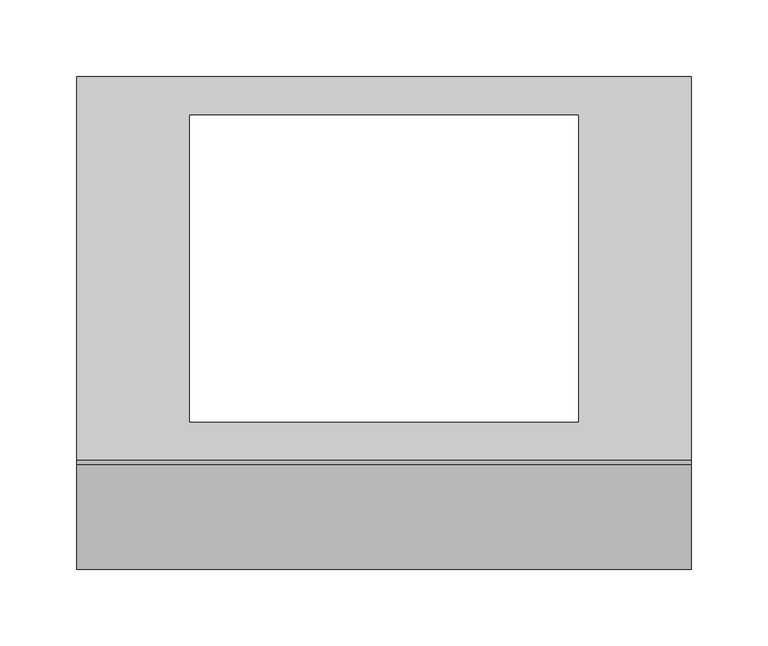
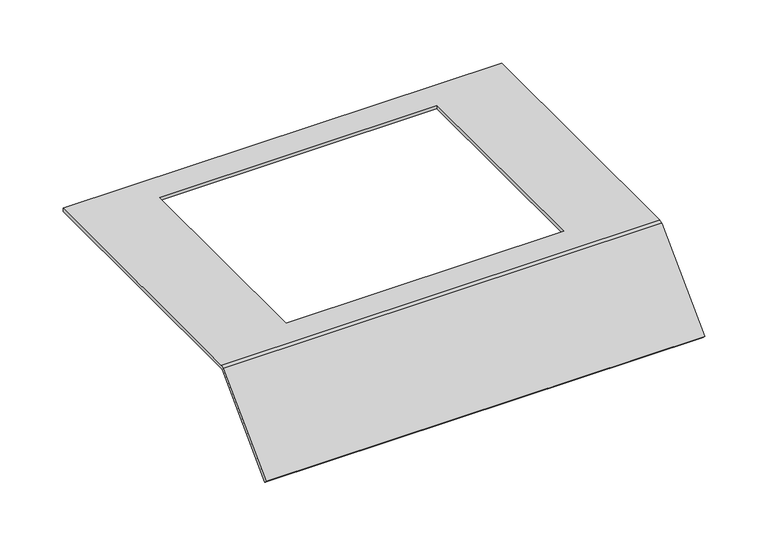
"""IFC4 building model written with IfcOpenShell, lengths in millimetres: proxy geometry, Electrical_Installation_Hager_Covers-With-Installation-Opening-E09 : Electrical_Installation_Hager_Covers-With-Installation-Opening-E09."""

from ifc_helpers import new_model, si_unit, frame, origin, place, context, project, spatial, polyline, circle_curve, source, transform, mapped, element, save
from ifc_brep_helpers import plane_surface, cylinder_surface, revolved_surface, advanced_brep


def electrical_fixtures_65cdaa76(model_context):
    return source(origin(), model_context, "Body", "AdvancedBrep", [
        advanced_brep(
        [(0.0, 125.0, 40.5), (0.0, 125.0, 37.5), (0.0, -124.8229541, 37.5), (0.0, -125.8322972, 37.0819164), (0.0, -193.712807, -30.7985934), (0.0, -195.8341273, -28.6772731), (0.0, -127.8206472, 39.336207), (0.0, -125.0110025, 40.5), (400.0, 125.0, 40.5), (400.0, -125.0110025, 40.5), (400.0, -127.8206472, 39.336207), (400.0, -195.8341273, -28.6772731), (400.0, -193.712807, -30.7985934), (400.0, -125.8322972, 37.0819164), (400.0, -124.8229541, 37.5), (400.0, 125.0, 37.5), (326.5, 100.0, 37.5), (73.5, 100.0, 37.5), (73.5, -100.0, 37.5), (326.5, -100.0, 37.5), (73.5, 100.0, 40.5), (326.5, 100.0, 40.5), (326.5, -100.0, 40.5), (73.5, -100.0, 40.5)],
        [
            (0, 1),
            (1, 2),
            (2, 3, circle_curve(frame((0.0, -124.8229541, 36.0725733), z_axis=(1.0, 0.0, 0.0), x_axis=(0.0, 1.0, 0.0)), 1.4274267)),
            (3, 4),
            (4, 5),
            (5, 6),
            (6, 7, circle_curve(frame((0.0, -125.0110025, 36.5265623), z_axis=(-1.0, 0.0, 0.0), x_axis=(0.0, 1.0, 0.0)), 3.9734377)),
            (7, 0),
            (8, 9),
            (9, 10, circle_curve(frame((400.0, -125.0110025, 36.5265623), z_axis=(1.0, 0.0, 0.0), x_axis=(0.0, 1.0, 0.0)), 3.9734377)),
            (10, 11),
            (11, 12),
            (12, 13),
            (13, 14, circle_curve(frame((400.0, -124.8229541, 36.0725733), z_axis=(-1.0, 0.0, 0.0), x_axis=(0.0, 1.0, 0.0)), 1.4274267)),
            (14, 15),
            (15, 8),
            (0, 8),
            (15, 1),
            (14, 2),
            (16, 17),
            (17, 18),
            (18, 19),
            (19, 16),
            (13, 3),
            (12, 4),
            (11, 5),
            (10, 6),
            (9, 7),
            (20, 21),
            (21, 22),
            (22, 23),
            (23, 20),
            (16, 21),
            (20, 17),
            (23, 18),
            (22, 19),
        ],
        [
            plane_surface(frame((0.0, 0.3269864, 15.0), z_axis=(-1.0, 0.0, 0.0), x_axis=(0.0, 0.0, 1.0))),
            plane_surface(frame((400.0, 0.3269864, 15.0), z_axis=(1.0, 0.0, 0.0), x_axis=(0.0, 0.0, 1.0))),
            plane_surface(frame((0.0, 125.0, 40.5), z_axis=(0.0, 1.0, 0.0), x_axis=(1.0, 0.0, 0.0))),
            plane_surface(frame((0.0, 125.0, 37.5), z_axis=(0.0, 0.0, -1.0), x_axis=(1.0, 0.0, 0.0))),
            revolved_surface(polyline([(400.0, -123.3955274, 36.0725733), (0.0, -123.3955274, 36.0725733)]), (0.0, -124.8229541, 36.0725733), (1.0, 0.0, 0.0)),
            plane_surface(frame((0.0, -125.8322972, 37.0819164), z_axis=(0.0, 0.7071067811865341, -0.707106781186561), x_axis=(1.0, 0.0, 0.0))),
            plane_surface(frame((0.0, -193.712807, -30.7985934), z_axis=(0.0, -0.7071067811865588, -0.7071067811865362), x_axis=(1.0, 0.0, 0.0))),
            plane_surface(frame((0.0, -195.8341273, -28.6772731), z_axis=(0.0, -0.7071067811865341, 0.707106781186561), x_axis=(1.0, 0.0, 0.0))),
            cylinder_surface(frame((0.0, -125.0110025, 36.5265623), z_axis=(-1.0, 0.0, 0.0), x_axis=(0.0, 1.0, 0.0)), 3.9734377),
            plane_surface(frame((0.0, -125.0110025, 40.5), z_axis=(0.0, 0.0, 1.0), x_axis=(1.0, 0.0, 0.0))),
            plane_surface(frame((326.5, 100.0, 250.0), z_axis=(0.0, -1.0, 0.0), x_axis=(0.0, 0.0, -1.0))),
            plane_surface(frame((73.5, 100.0, 250.0), z_axis=(1.0, 0.0, 0.0), x_axis=(0.0, 0.0, -1.0))),
            plane_surface(frame((73.5, -100.0, 250.0), z_axis=(0.0, 1.0, 0.0), x_axis=(0.0, 0.0, -1.0))),
            plane_surface(frame((326.5, -100.0, 250.0), z_axis=(-1.0, 0.0, 0.0), x_axis=(0.0, 0.0, -1.0))),
        ],
        [
            (0, [[1, 2, 3, 4, 5, 6, 7, 8]]),
            (1, [[9, 10, 11, 12, 13, 14, 15, 16]]),
            (2, [[-1, 17, -16, 18]]),
            (3, [[-2, -18, -15, 19], [20, 21, 22, 23]]),
            (4, [[-3, -19, -14, 24]]),
            (5, [[-4, -24, -13, 25]]),
            (6, [[-5, -25, -12, 26]]),
            (7, [[-6, -26, -11, 27]]),
            (8, [[-7, -27, -10, 28]]),
            (9, [[-8, -28, -9, -17], [29, 30, 31, 32]]),
            (10, [[33, -29, 34, -20]]),
            (11, [[-34, -32, 35, -21]]),
            (12, [[-35, -31, 36, -22]]),
            (13, [[-33, -23, -36, -30]]),
        ],
    ),
    ])


if __name__ == "__main__":
    model = new_model("IFC4")
    model_context = context("Model", 3, world=origin())
    ifc_project = project(units=[si_unit("LENGTHUNIT", "METRE", prefix="MILLI")], contexts=[model_context])
    site = spatial("IfcSite", under=ifc_project)
    building = spatial("IfcBuilding", under=site)
    placement = place(None, origin())
    electrical_fixtures_shape = electrical_fixtures_65cdaa76(model_context)
    element("IfcBuildingElementProxy", 1, Name="Electrical_Installation_Hager_Covers-With-Installation-Opening-E09 : Electrical_Installation_Hager_Covers-With-Installation-Opening-E09", ObjectType="Electrical_Installation_Hager_Covers-With-Installation-Opening-E09 : Electrical_Installation_Hager_Covers-With-Installation-Opening-E09", at=placement, inside=building, context=model_context, shape_type="MappedRepresentation", body=[
        mapped(electrical_fixtures_shape, transform((0.0, 0.0, 0.0), x_axis=(1.0, 0.0, 0.0), y_axis=(0.0, 1.0, 0.0), z_axis=(0.0, 0.0, 1.0))),
    ])
    save(model, "model.ifc")
